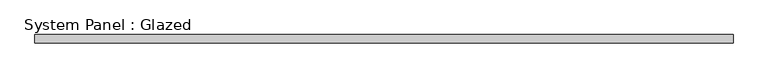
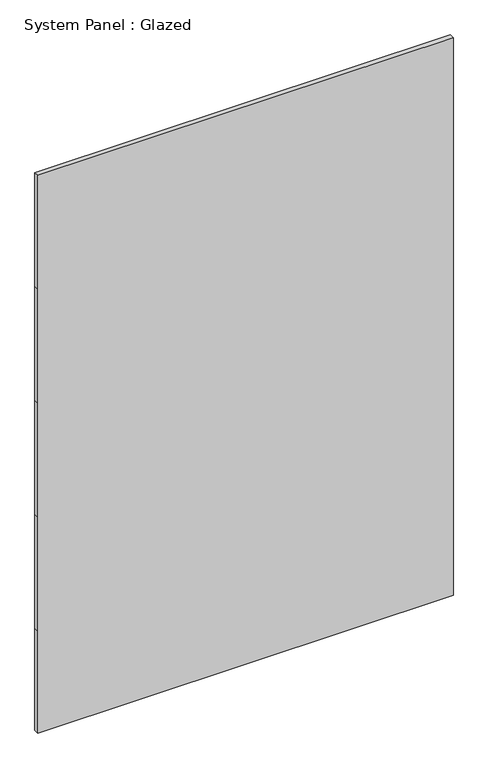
"""IFC4 building model written with IfcOpenShell, lengths in millimetres: plate geometry, System Panel : Glazed."""

from ifc_helpers import new_model, si_unit, frame, origin, place, context, project, spatial, polyline, outline, extrude, source, transform, mapped, element, save


def system_panel_glazed_af4c5372(model_context):
    return source(origin(), model_context, "Body", "SweptSolid", [
        extrude(outline(polyline([(0.0, -1052.2857142), (0.0, 1052.2857142), (546.1, 1052.2857142), (1155.7, 1052.2857142), (1765.3, 1052.2857142), (2374.9, 1052.2857142), (2984.5, 1052.2857142), (2984.5, -1052.2857142), (2374.9, -1052.2857142), (1765.3, -1052.2857142), (1155.7, -1052.2857142), (546.1, -1052.2857142), (0.0, -1052.2857142)])), frame((0.0, 19.05, 0.0), z_axis=(0.0, 1.0, 0.0), x_axis=(0.0, 0.0, 1.0)), (0.0, 0.0, 1.0), 25.4),
    ])


if __name__ == "__main__":
    model = new_model("IFC4")
    model_context = context("Model", 3, world=origin())
    ifc_project = project(units=[si_unit("LENGTHUNIT", "METRE", prefix="MILLI")], contexts=[model_context])
    site = spatial("IfcSite", under=ifc_project)
    building = spatial("IfcBuilding", under=site)
    placement = place(None, origin())
    system_panel_glazed_shape = system_panel_glazed_af4c5372(model_context)
    element("IfcPlate", 1, ObjectType="System Panel : Glazed", at=placement, inside=building, context=model_context, shape_type="MappedRepresentation", body=[
        mapped(system_panel_glazed_shape, transform((0.0, 0.0, 0.0), x_axis=(1.0, 0.0, 0.0), y_axis=(0.0, 1.0, 0.0), z_axis=(0.0, 0.0, 1.0))),
    ])
    save(model, "model.ifc")
